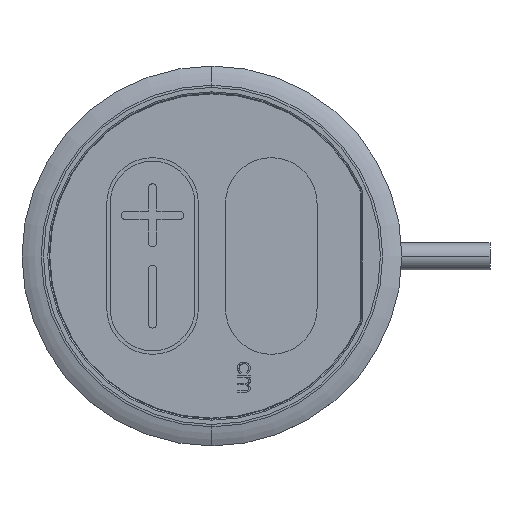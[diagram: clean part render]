
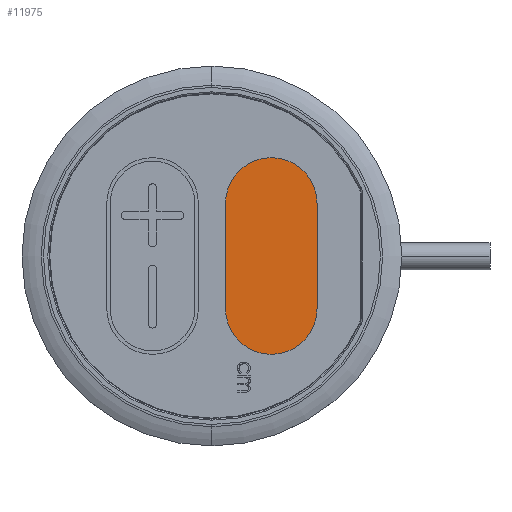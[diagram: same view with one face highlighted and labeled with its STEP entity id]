
A CAD part, top view. The second image highlights one B-rep face of the part: STEP entity #11975.
In plain terms, the highlighted planar face has unit normal (0, 0, 1).
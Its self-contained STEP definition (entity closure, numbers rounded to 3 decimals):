
#709 = AXIS2_PLACEMENT_3D ( 'NONE', #8672, #8682, #8683 ) ;
#1364 = AXIS2_PLACEMENT_3D ( 'NONE', #31103, #31126, #31127 ) ;
#1605 = AXIS2_PLACEMENT_3D ( 'NONE', #31469, #31471, #31472 ) ;
#7852 = CIRCLE ( 'NONE', #1605, 6.75 ) ;
#7927 = VECTOR ( 'NONE', #31229, 1000. ) ;
#7937 = LINE ( 'NONE', #31228, #7927 ) ;
#7943 = LINE ( 'NONE', #31353, #7954 ) ;
#7954 = VECTOR ( 'NONE', #31362, 1000. ) ;
#8176 = CIRCLE ( 'NONE', #1364, 6.75 ) ;
#8672 = CARTESIAN_POINT ( 'NONE',  ( 0., 0., 1. ) ) ;
#8677 = PLANE ( 'NONE',  #709 ) ;
#8682 = DIRECTION ( 'NONE',  ( 0., 0., 1. ) ) ;
#8683 = DIRECTION ( 'NONE',  ( 1., 0., 0. ) ) ;
#11975 = ADVANCED_FACE ( 'NONE', ( #26775 ), #8677, .T. ) ;
#15721 = ORIENTED_EDGE ( 'NONE', *, *, #18048, .F. ) ;
#16016 = ORIENTED_EDGE ( 'NONE', *, *, #18078, .F. ) ;
#16324 = ORIENTED_EDGE ( 'NONE', *, *, #18124, .F. ) ;
#16325 = ORIENTED_EDGE ( 'NONE', *, *, #18162, .F. ) ;
#18048 = EDGE_CURVE ( 'NONE', #28775, #27740, #8176, .T. ) ;
#18078 = EDGE_CURVE ( 'NONE', #27740, #27744, #7937, .T. ) ;
#18124 = EDGE_CURVE ( 'NONE', #27746, #28775, #7943, .T. ) ;
#18162 = EDGE_CURVE ( 'NONE', #27744, #27746, #7852, .T. ) ;
#19405 = EDGE_LOOP ( 'NONE', ( #15721, #16324, #16325, #16016 ) ) ;
#21241 = CARTESIAN_POINT ( 'NONE',  ( 7.75, 2., 1. ) ) ;
#21245 = CARTESIAN_POINT ( 'NONE',  ( -7.75, 2., 1. ) ) ;
#21247 = CARTESIAN_POINT ( 'NONE',  ( -7.75, 15.5, 1. ) ) ;
#22089 = CARTESIAN_POINT ( 'NONE',  ( 7.75, 15.5, 1. ) ) ;
#26775 = FACE_OUTER_BOUND ( 'NONE', #19405, .T. ) ;
#27740 = VERTEX_POINT ( 'NONE', #21241 ) ;
#27744 = VERTEX_POINT ( 'NONE', #21245 ) ;
#27746 = VERTEX_POINT ( 'NONE', #21247 ) ;
#28775 = VERTEX_POINT ( 'NONE', #22089 ) ;
#31103 = CARTESIAN_POINT ( 'NONE',  ( 7.75, 8.75, 1. ) ) ;
#31126 = DIRECTION ( 'NONE',  ( 0., 0., -1. ) ) ;
#31127 = DIRECTION ( 'NONE',  ( 1., 0., 0. ) ) ;
#31228 = CARTESIAN_POINT ( 'NONE',  ( 0., 2., 1. ) ) ;
#31229 = DIRECTION ( 'NONE',  ( -1., 0., 0. ) ) ;
#31353 = CARTESIAN_POINT ( 'NONE',  ( 0., 15.5, 1. ) ) ;
#31362 = DIRECTION ( 'NONE',  ( 1., 0., 0. ) ) ;
#31469 = CARTESIAN_POINT ( 'NONE',  ( -7.75, 8.75, 1. ) ) ;
#31471 = DIRECTION ( 'NONE',  ( 0., 0., -1. ) ) ;
#31472 = DIRECTION ( 'NONE',  ( 1., 0., 0. ) ) ;
